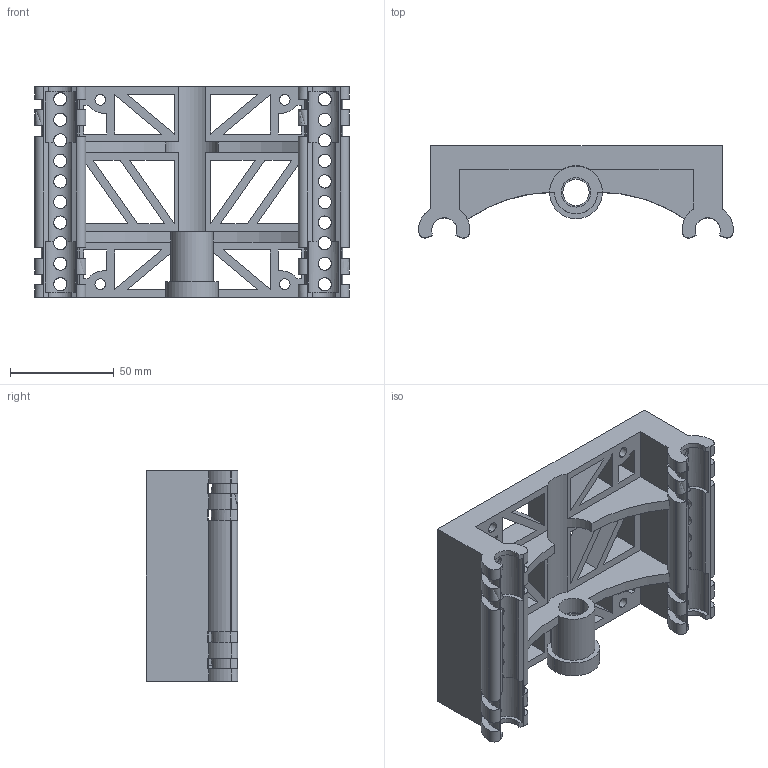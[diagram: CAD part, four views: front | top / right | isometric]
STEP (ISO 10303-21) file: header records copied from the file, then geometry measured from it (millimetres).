
FILE_DESCRIPTION (( 'STEP AP203' ), '1' );
FILE_NAME ('bed carrier.STEP', '2017-10-24T20:00:35', ( '' ), ( '' ), 'SwSTEP 2.0', 'SolidWorks 2016', '' );
FILE_SCHEMA (( 'CONFIG_CONTROL_DESIGN' ));
Length unit declared in the file: inch
Products named in the file (1): bed carrier
Bounding box: 151.76 x 44.27 x 101.6 mm (x, y, z)
Volume: 196321 mm3; surface area: 85424.1 mm2
Topology: 1 solids, 1 shells, 314 faces, 1048 edges, 698 vertices
Faces by surface type: cylinder 177, plane 137
Entity records: 13485 total; most frequent: CARTESIAN_POINT 3841, ORIENTED_EDGE 2096, DIRECTION 1972, EDGE_CURVE 1048, AXIS2_PLACEMENT_3D 705, VERTEX_POINT 698, VECTOR 562, LINE 562
